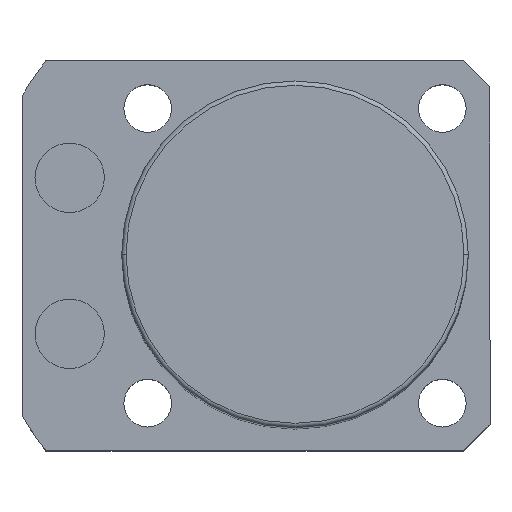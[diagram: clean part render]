
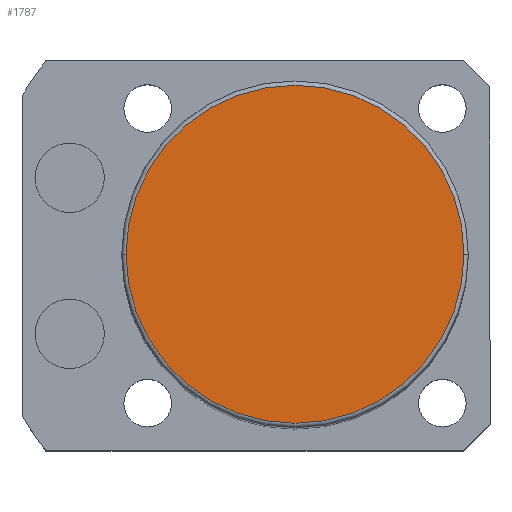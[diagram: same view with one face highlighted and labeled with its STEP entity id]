
A CAD part, top view. The second image highlights one B-rep face of the part: STEP entity #1787.
In plain terms, the highlighted planar face has unit normal (0, 0, 1).
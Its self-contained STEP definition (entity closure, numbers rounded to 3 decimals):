
#297 = CARTESIAN_POINT ( 'NONE',  ( 0., 0., 113.5 ) ) ;
#765 = DIRECTION ( 'NONE',  ( 1., 0., 0. ) ) ;
#1189 = AXIS2_PLACEMENT_3D ( 'NONE', #297, #2602, #765 ) ;
#1296 = FACE_OUTER_BOUND ( 'NONE', #5250, .T. ) ;
#1699 = DIRECTION ( 'NONE',  ( 1., 0., 0. ) ) ;
#1787 = ADVANCED_FACE ( 'NONE', ( #1296 ), #4414, .T. ) ;
#1874 = CARTESIAN_POINT ( 'NONE',  ( -19.5, 0., 113.5 ) ) ;
#2157 = DIRECTION ( 'NONE',  ( 0., 0., 1. ) ) ;
#2281 = DIRECTION ( 'NONE',  ( 1., 0., 0. ) ) ;
#2602 = DIRECTION ( 'NONE',  ( 0., 0., 1. ) ) ;
#2639 = CARTESIAN_POINT ( 'NONE',  ( 0., 0., 113.5 ) ) ;
#2738 = AXIS2_PLACEMENT_3D ( 'NONE', #2639, #2157, #1699 ) ;
#3187 = CARTESIAN_POINT ( 'NONE',  ( 0., 0., 113.5 ) ) ;
#3628 = DIRECTION ( 'NONE',  ( 0., 0., 1. ) ) ;
#4266 = EDGE_CURVE ( 'NONE', #5591, #5650, #5442, .T. ) ;
#4321 = ORIENTED_EDGE ( 'NONE', *, *, #5111, .T. ) ;
#4414 = PLANE ( 'NONE',  #1189 ) ;
#4537 = ORIENTED_EDGE ( 'NONE', *, *, #4266, .T. ) ;
#4631 = CIRCLE ( 'NONE', #2738, 19.5 ) ;
#5111 = EDGE_CURVE ( 'NONE', #5650, #5591, #4631, .T. ) ;
#5250 = EDGE_LOOP ( 'NONE', ( #4321, #4537 ) ) ;
#5328 = CARTESIAN_POINT ( 'NONE',  ( 19.5, 0., 113.5 ) ) ;
#5442 = CIRCLE ( 'NONE', #5551, 19.5 ) ;
#5551 = AXIS2_PLACEMENT_3D ( 'NONE', #3187, #3628, #2281 ) ;
#5591 = VERTEX_POINT ( 'NONE', #1874 ) ;
#5650 = VERTEX_POINT ( 'NONE', #5328 ) ;
